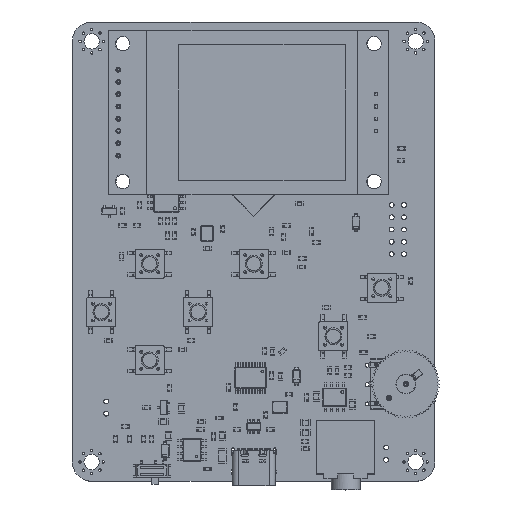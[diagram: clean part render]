
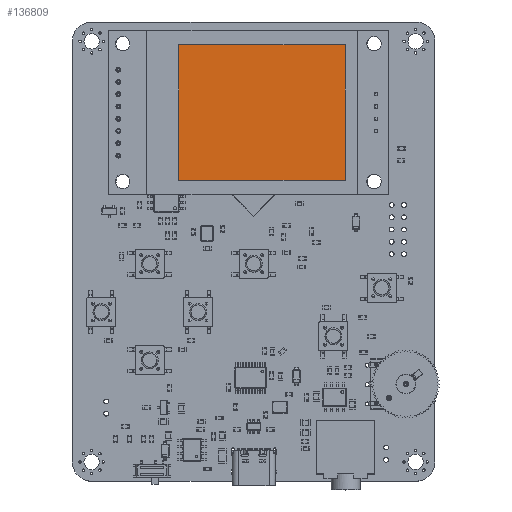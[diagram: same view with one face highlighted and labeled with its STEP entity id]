
A CAD part, top view. The second image highlights one B-rep face of the part: STEP entity #136809.
In plain terms, the highlighted planar face has unit normal (0, 0, 1).
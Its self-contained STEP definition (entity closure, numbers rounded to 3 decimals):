
#2690 = ORIENTED_EDGE ( 'NONE', *, *, #6940, .T. ) ;
#6940 = EDGE_CURVE ( 'NONE', #283540, #253185, #124850, .T. ) ;
#12512 = ORIENTED_EDGE ( 'NONE', *, *, #76289, .T. ) ;
#15385 = DIRECTION ( 'NONE',  ( 0., 0., 1. ) ) ;
#26337 = CARTESIAN_POINT ( 'NONE',  ( -14.015, 20.05, 4.2 ) ) ;
#47171 = VECTOR ( 'NONE', #123211, 1000. ) ;
#47683 = ORIENTED_EDGE ( 'NONE', *, *, #248000, .T. ) ;
#55727 = CARTESIAN_POINT ( 'NONE',  ( 14.015, -14.45, 4.2 ) ) ;
#60134 = EDGE_LOOP ( 'NONE', ( #2690, #47683, #12512, #283266 ) ) ;
#65407 = CARTESIAN_POINT ( 'NONE',  ( 14.015, 20.05, 4.2 ) ) ;
#76289 = EDGE_CURVE ( 'NONE', #223482, #91836, #136290, .T. ) ;
#88859 = DIRECTION ( 'NONE',  ( 1., 0., 0. ) ) ;
#91836 = VERTEX_POINT ( 'NONE', #65407 ) ;
#93501 = VECTOR ( 'NONE', #100916, 1000. ) ;
#100916 = DIRECTION ( 'NONE',  ( 0., -1., 0. ) ) ;
#102196 = CARTESIAN_POINT ( 'NONE',  ( -14.015, -14.45, 4.2 ) ) ;
#123211 = DIRECTION ( 'NONE',  ( 1., 0., 0. ) ) ;
#124850 = LINE ( 'NONE', #222354, #93501 ) ;
#131711 = VECTOR ( 'NONE', #283218, 1000. ) ;
#136290 = LINE ( 'NONE', #256131, #131711 ) ;
#136809 = ADVANCED_FACE ( 'NONE', ( #279021 ), #253475, .T. ) ;
#208904 = EDGE_CURVE ( 'NONE', #91836, #283540, #215530, .T. ) ;
#212303 = AXIS2_PLACEMENT_3D ( 'NONE', #259754, #15385, #88859 ) ;
#215530 = LINE ( 'NONE', #288965, #241503 ) ;
#222354 = CARTESIAN_POINT ( 'NONE',  ( -14.015, -14.45, 4.2 ) ) ;
#223482 = VERTEX_POINT ( 'NONE', #55727 ) ;
#241503 = VECTOR ( 'NONE', #312937, 1000. ) ;
#244618 = CARTESIAN_POINT ( 'NONE',  ( 14.015, -14.45, 4.2 ) ) ;
#248000 = EDGE_CURVE ( 'NONE', #253185, #223482, #268560, .T. ) ;
#253185 = VERTEX_POINT ( 'NONE', #102196 ) ;
#253475 = PLANE ( 'NONE',  #212303 ) ;
#256131 = CARTESIAN_POINT ( 'NONE',  ( 14.015, -14.45, 4.2 ) ) ;
#259754 = CARTESIAN_POINT ( 'NONE',  ( 0., 0., 4.2 ) ) ;
#268560 = LINE ( 'NONE', #244618, #47171 ) ;
#279021 = FACE_OUTER_BOUND ( 'NONE', #60134, .T. ) ;
#283218 = DIRECTION ( 'NONE',  ( 0., 1., 0. ) ) ;
#283266 = ORIENTED_EDGE ( 'NONE', *, *, #208904, .T. ) ;
#283540 = VERTEX_POINT ( 'NONE', #26337 ) ;
#288965 = CARTESIAN_POINT ( 'NONE',  ( 14.015, 20.05, 4.2 ) ) ;
#312937 = DIRECTION ( 'NONE',  ( -1., 0., 0. ) ) ;
